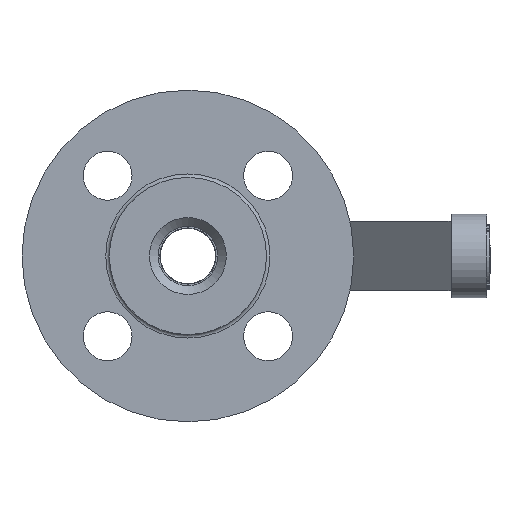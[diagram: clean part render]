
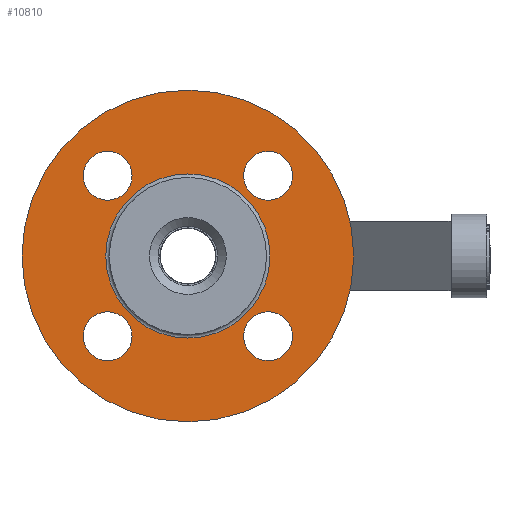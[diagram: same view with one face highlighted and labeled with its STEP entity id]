
A CAD part, left-side view. The second image highlights one B-rep face of the part: STEP entity #10810.
In plain terms, the highlighted planar face has unit normal (-1, 0, 0).
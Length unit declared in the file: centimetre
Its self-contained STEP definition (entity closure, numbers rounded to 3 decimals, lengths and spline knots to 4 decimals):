
#2509=FACE_BOUND('',#3464,.T.);
#2510=FACE_BOUND('',#3465,.T.);
#2511=FACE_BOUND('',#3466,.T.);
#2512=FACE_BOUND('',#3467,.T.);
#2513=FACE_BOUND('',#3468,.T.);
#2744=FACE_OUTER_BOUND('',#3463,.T.);
#3463=EDGE_LOOP('',(#7179));
#3464=EDGE_LOOP('',(#7180));
#3465=EDGE_LOOP('',(#7181));
#3466=EDGE_LOOP('',(#7182));
#3467=EDGE_LOOP('',(#7183));
#3468=EDGE_LOOP('',(#7184));
#4169=CIRCLE('',#11579,4.75);
#4170=CIRCLE('',#11581,0.7);
#4171=CIRCLE('',#11582,0.7);
#4172=CIRCLE('',#11583,0.7);
#4173=CIRCLE('',#11584,0.7);
#4174=CIRCLE('',#11585,2.35);
#4502=VERTEX_POINT('',#16395);
#4503=VERTEX_POINT('',#16398);
#4504=VERTEX_POINT('',#16400);
#4505=VERTEX_POINT('',#16402);
#4506=VERTEX_POINT('',#16404);
#4507=VERTEX_POINT('',#16406);
#5533=EDGE_CURVE('',#4502,#4502,#4169,.T.);
#5534=EDGE_CURVE('',#4503,#4503,#4170,.T.);
#5535=EDGE_CURVE('',#4504,#4504,#4171,.T.);
#5536=EDGE_CURVE('',#4505,#4505,#4172,.T.);
#5537=EDGE_CURVE('',#4506,#4506,#4173,.T.);
#5538=EDGE_CURVE('',#4507,#4507,#4174,.T.);
#7179=ORIENTED_EDGE('',*,*,#5533,.F.);
#7180=ORIENTED_EDGE('',*,*,#5534,.T.);
#7181=ORIENTED_EDGE('',*,*,#5535,.T.);
#7182=ORIENTED_EDGE('',*,*,#5536,.T.);
#7183=ORIENTED_EDGE('',*,*,#5537,.T.);
#7184=ORIENTED_EDGE('',*,*,#5538,.F.);
#9686=PLANE('',#11580);
#10810=ADVANCED_FACE('',(#2744,#2509,#2510,#2511,#2512,#2513),#9686,.F.);
#11579=AXIS2_PLACEMENT_3D('',#16396,#12810,#12811);
#11580=AXIS2_PLACEMENT_3D('',#16397,#12812,#12813);
#11581=AXIS2_PLACEMENT_3D('',#16399,#12814,#12815);
#11582=AXIS2_PLACEMENT_3D('',#16401,#12816,#12817);
#11583=AXIS2_PLACEMENT_3D('',#16403,#12818,#12819);
#11584=AXIS2_PLACEMENT_3D('',#16405,#12820,#12821);
#11585=AXIS2_PLACEMENT_3D('',#16407,#12822,#12823);
#12810=DIRECTION('center_axis',(1.,0.,0.));
#12811=DIRECTION('ref_axis',(0.,0.,
1.));
#12812=DIRECTION('center_axis',(1.,0.,0.));
#12813=DIRECTION('ref_axis',(0.,0.,1.));
#12814=DIRECTION('center_axis',(1.,0.,0.));
#12815=DIRECTION('ref_axis',(0.,1.,0.));
#12816=DIRECTION('center_axis',(1.,0.,0.));
#12817=DIRECTION('ref_axis',(0.,0.,
1.));
#12818=DIRECTION('center_axis',(1.,0.,0.));
#12819=DIRECTION('ref_axis',(0.,-1.,0.));
#12820=DIRECTION('center_axis',(1.,0.,0.));
#12821=DIRECTION('ref_axis',(0.,0.,
-1.));
#12822=DIRECTION('center_axis',(-1.,0.,0.));
#12823=DIRECTION('ref_axis',(0.,0.,
1.));
#16395=CARTESIAN_POINT('',(-7.5137,0.0079,-4.75));
#16396=CARTESIAN_POINT('Origin',(-7.5137,0.0079,
0.));
#16397=CARTESIAN_POINT('Origin',(-7.5137,0.0079,
0.));
#16398=CARTESIAN_POINT('',(-7.5137,3.006,-2.2981));
#16399=CARTESIAN_POINT('Origin',(-7.5137,2.306,-2.2981));
#16400=CARTESIAN_POINT('',(-7.5137,2.306,2.9981));
#16401=CARTESIAN_POINT('Origin',(-7.5137,2.306,2.2981));
#16402=CARTESIAN_POINT('',(-7.5137,-2.9902,2.2981));
#16403=CARTESIAN_POINT('Origin',(-7.5137,-2.2902,2.2981));
#16404=CARTESIAN_POINT('',(-7.5137,-2.2902,-2.9981));
#16405=CARTESIAN_POINT('Origin',(-7.5137,-2.2902,-2.2981));
#16406=CARTESIAN_POINT('',(-7.5137,0.0079,-2.35));
#16407=CARTESIAN_POINT('Origin',(-7.5137,0.0079,
0.));
